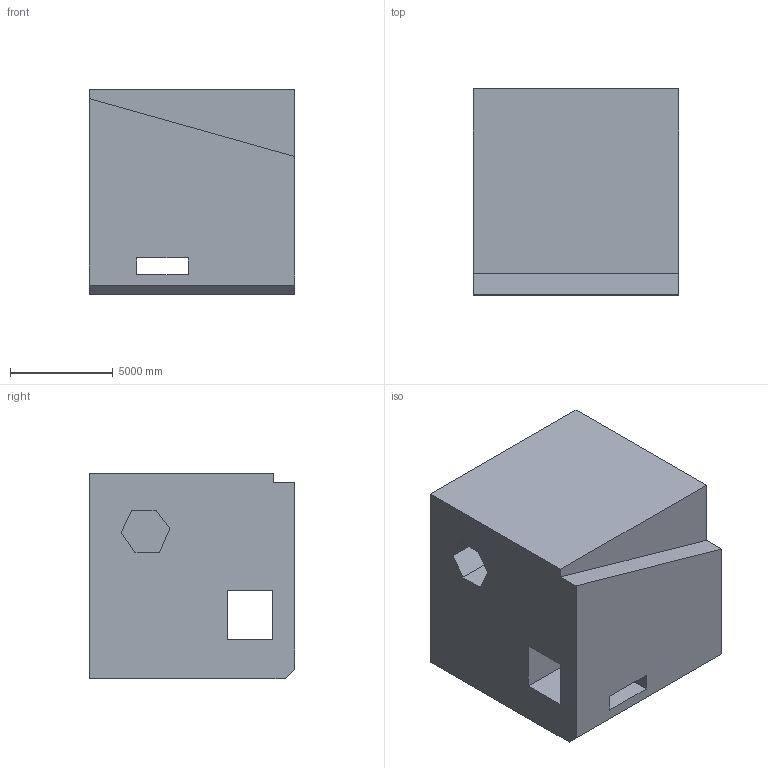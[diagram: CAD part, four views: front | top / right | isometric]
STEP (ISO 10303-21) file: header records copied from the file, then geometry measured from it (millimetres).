
FILE_DESCRIPTION (( 'STEP AP203' ), '1' );
FILE_NAME ('51.STEP', '2022-09-01T11:47:13', ( 'user' ), ( '' ), 'SwSTEP 2.0', 'SolidWorks 2021', '' );
FILE_SCHEMA (( 'CONFIG_CONTROL_DESIGN' ));
Length unit declared in the file: centimetre
Products named in the file (1): 51
Bounding box: 10000 x 10000 x 10000 mm (x, y, z)
Volume: 860579509901.9 mm3; surface area: 821938087.3 mm2
Topology: 1 solids, 1 shells, 33 faces, 93 edges, 62 vertices
Faces by surface type: plane 33
Entity records: 1136 total; most frequent: CARTESIAN_POINT 189, ORIENTED_EDGE 186, DIRECTION 161, EDGE_CURVE 93, VECTOR 93, LINE 93, VERTEX_POINT 62, EDGE_LOOP 39
